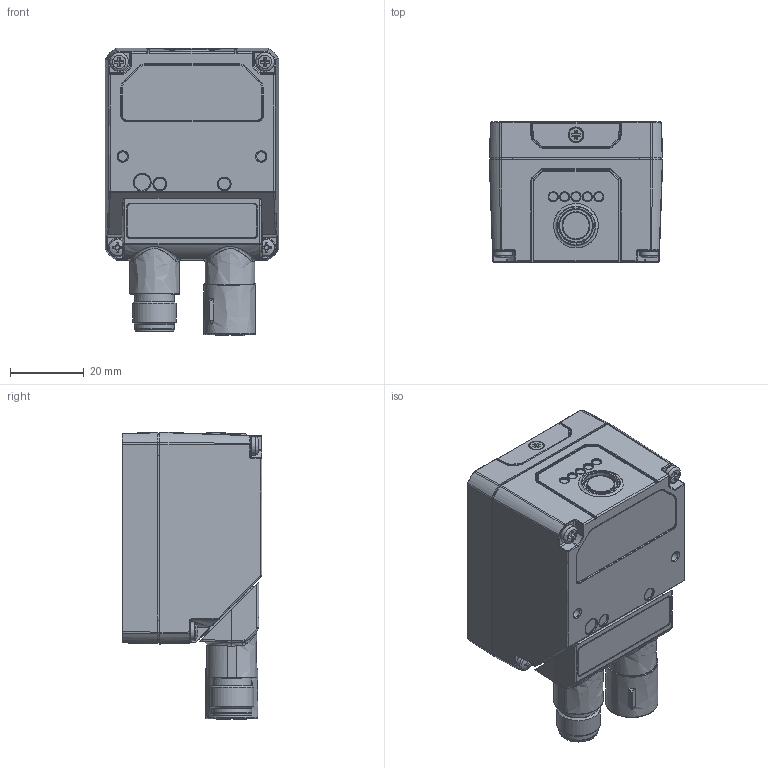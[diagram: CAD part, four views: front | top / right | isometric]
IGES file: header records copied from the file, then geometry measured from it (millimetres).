
Global section: file name: C:\Users\fguttadauro\Desktop\Nuova cartella\DSD-1030_IGS.igs; native system: NX V12.0; preprocessor: SIEMENS PLM Software NX 12.0; date: 20201028.112837; units: millimetre
Bounding box: 47.1 x 38 x 78.07 mm (x, y, z)
Surface area: 19431.9 mm2 (no closed solid volume)
Topology: 0 solids, 0 shells, 1170 faces, 6570 edges, 6442 vertices
Faces by surface type: bspline 1170
